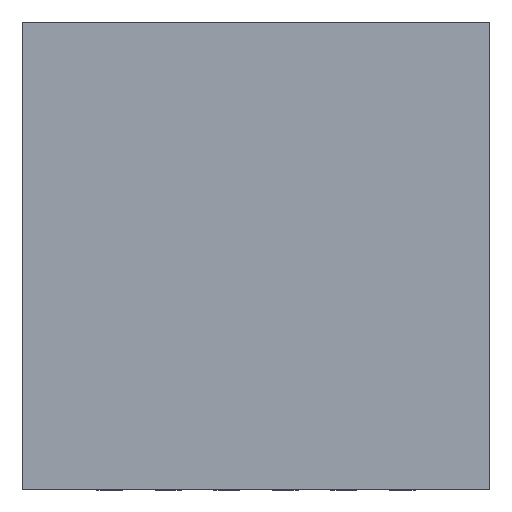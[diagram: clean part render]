
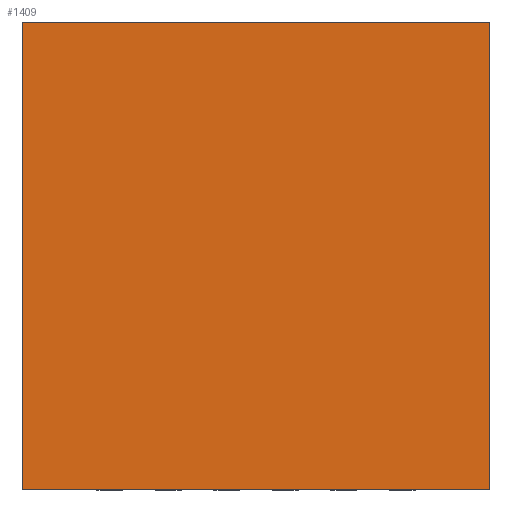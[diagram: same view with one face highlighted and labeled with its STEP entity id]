
A CAD part, top view. The second image highlights one B-rep face of the part: STEP entity #1409.
In plain terms, the highlighted planar face has unit normal (0, 0, 1).
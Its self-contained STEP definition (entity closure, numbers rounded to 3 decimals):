
#456 = VERTEX_POINT ( 'NONE', #5668 ) ;
#524 = LINE ( 'NONE', #2912, #4932 ) ;
#658 = EDGE_CURVE ( 'Defeatured_0_5+Defeatured_0_4+Defeatured_0_3+Defeatured_0_1', #2637, #5940, #4809, .T. ) ;
#756 = EDGE_LOOP ( 'NONE', ( #4201, #1251, #4235, #6453 ) ) ;
#920 = DIRECTION ( 'NONE',  ( 1., 0., 0. ) ) ;
#1068 = EDGE_CURVE ( 'Defeatured_0_5+Defeatured_0_3+Defeatured_0_2+Defeatured_0_4', #2546, #2637, #1101, .T. ) ;
#1101 = LINE ( 'NONE', #1873, #6301 ) ;
#1151 = DIRECTION ( 'NONE',  ( 0., 0., -1. ) ) ;
#1251 = ORIENTED_EDGE ( 'NONE', *, *, #6427, .T. ) ;
#1268 = DIRECTION ( 'NONE',  ( 0., -1., 0. ) ) ;
#1409 = ADVANCED_FACE ( 'Defeatured_0_5', ( #2602 ), #1606, .F. ) ;
#1606 = PLANE ( 'NONE',  #2313 ) ;
#1873 = CARTESIAN_POINT ( 'NONE',  ( -0.482, 0.121, 3.683 ) ) ;
#1890 = DIRECTION ( 'NONE',  ( 0., 1., 0. ) ) ;
#1999 = LINE ( 'NONE', #5924, #2942 ) ;
#2059 = CARTESIAN_POINT ( 'NONE',  ( 3.518, 0.121, 3.683 ) ) ;
#2305 = EDGE_CURVE ( 'Defeatured_0_5+Defeatured_0_1+Defeatured_0_4+Defeatured_0_2', #5940, #456, #524, .T. ) ;
#2313 = AXIS2_PLACEMENT_3D ( 'NONE', #2643, #1151, #3598 ) ;
#2546 = VERTEX_POINT ( 'NONE', #2701 ) ;
#2602 = FACE_OUTER_BOUND ( 'NONE', #756, .T. ) ;
#2637 = VERTEX_POINT ( 'NONE', #6349 ) ;
#2643 = CARTESIAN_POINT ( 'NONE',  ( 1.518, 2.121, 3.683 ) ) ;
#2701 = CARTESIAN_POINT ( 'NONE',  ( -0.482, 4.121, 3.683 ) ) ;
#2912 = CARTESIAN_POINT ( 'NONE',  ( 3.518, 0.121, 3.683 ) ) ;
#2937 = VECTOR ( 'NONE', #920, 1000. ) ;
#2942 = VECTOR ( 'NONE', #3891, 1000. ) ;
#3598 = DIRECTION ( 'NONE',  ( -1., 0., 0. ) ) ;
#3891 = DIRECTION ( 'NONE',  ( -1., 0., 0. ) ) ;
#3917 = CARTESIAN_POINT ( 'NONE',  ( -0.482, 0.121, 3.683 ) ) ;
#4201 = ORIENTED_EDGE ( 'NONE', *, *, #2305, .T. ) ;
#4235 = ORIENTED_EDGE ( 'NONE', *, *, #1068, .T. ) ;
#4809 = LINE ( 'NONE', #3917, #2937 ) ;
#4932 = VECTOR ( 'NONE', #1890, 1000. ) ;
#5668 = CARTESIAN_POINT ( 'NONE',  ( 3.518, 4.121, 3.683 ) ) ;
#5924 = CARTESIAN_POINT ( 'NONE',  ( -0.482, 4.121, 3.683 ) ) ;
#5940 = VERTEX_POINT ( 'NONE', #2059 ) ;
#6301 = VECTOR ( 'NONE', #1268, 1000. ) ;
#6349 = CARTESIAN_POINT ( 'NONE',  ( -0.482, 0.121, 3.683 ) ) ;
#6427 = EDGE_CURVE ( 'Defeatured_0_5+Defeatured_0_2+Defeatured_0_1+Defeatured_0_3', #456, #2546, #1999, .T. ) ;
#6453 = ORIENTED_EDGE ( 'NONE', *, *, #658, .T. ) ;
